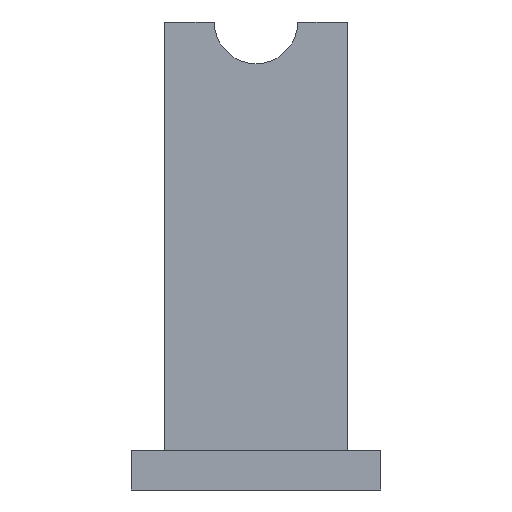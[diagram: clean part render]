
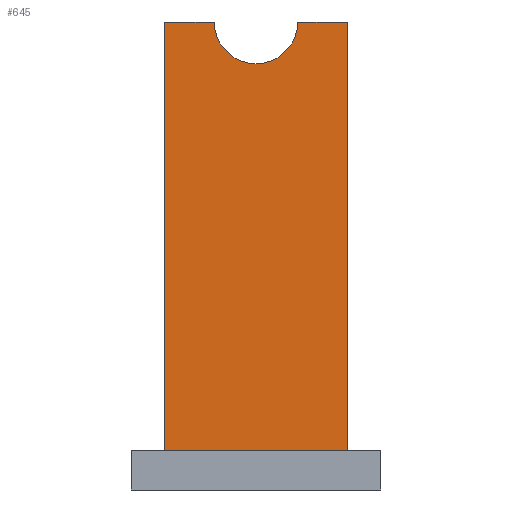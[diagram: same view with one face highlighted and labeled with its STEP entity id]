
A CAD part, left-side view. The second image highlights one B-rep face of the part: STEP entity #645.
In plain terms, the highlighted planar face has unit normal (-1, 0, 0).
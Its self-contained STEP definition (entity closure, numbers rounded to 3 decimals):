
#282 = PLANE('',#283);
#283 = AXIS2_PLACEMENT_3D('',#284,#285,#286);
#284 = CARTESIAN_POINT('',(79.,-15.,9.6));
#285 = DIRECTION('',(0.,0.,1.));
#286 = DIRECTION('',(1.,0.,-0.));
#534 = EDGE_CURVE('',#535,#537,#539,.T.);
#535 = VERTEX_POINT('',#536);
#536 = CARTESIAN_POINT('',(86.8,11.,9.6));
#537 = VERTEX_POINT('',#538);
#538 = CARTESIAN_POINT('',(86.8,-11.,9.6));
#539 = SURFACE_CURVE('',#540,(#544,#551),.PCURVE_S1.);
#540 = LINE('',#541,#542);
#541 = CARTESIAN_POINT('',(86.8,-13.,9.6));
#542 = VECTOR('',#543,1.);
#543 = DIRECTION('',(0.,-1.,0.));
#544 = PCURVE('',#282,#545);
#545 = DEFINITIONAL_REPRESENTATION('',(#546),#550);
#546 = LINE('',#547,#548);
#547 = CARTESIAN_POINT('',(7.8,2.));
#548 = VECTOR('',#549,1.);
#549 = DIRECTION('',(0.,-1.));
#550 = ( GEOMETRIC_REPRESENTATION_CONTEXT(2) 
PARAMETRIC_REPRESENTATION_CONTEXT() REPRESENTATION_CONTEXT('2D SPACE',''
  ) );
#551 = PCURVE('',#552,#557);
#552 = PLANE('',#553);
#553 = AXIS2_PLACEMENT_3D('',#554,#555,#556);
#554 = CARTESIAN_POINT('',(86.8,-11.,4.8));
#555 = DIRECTION('',(1.,0.,0.));
#556 = DIRECTION('',(0.,0.,1.));
#557 = DEFINITIONAL_REPRESENTATION('',(#558),#562);
#558 = LINE('',#559,#560);
#559 = CARTESIAN_POINT('',(4.8,2.));
#560 = VECTOR('',#561,1.);
#561 = DIRECTION('',(0.,1.));
#562 = ( GEOMETRIC_REPRESENTATION_CONTEXT(2) 
PARAMETRIC_REPRESENTATION_CONTEXT() REPRESENTATION_CONTEXT('2D SPACE',''
  ) );
#580 = PLANE('',#581);
#581 = AXIS2_PLACEMENT_3D('',#582,#583,#584);
#582 = CARTESIAN_POINT('',(86.8,11.,4.8));
#583 = DIRECTION('',(0.,1.,0.));
#584 = DIRECTION('',(0.,-0.,1.));
#634 = PLANE('',#635);
#635 = AXIS2_PLACEMENT_3D('',#636,#637,#638);
#636 = CARTESIAN_POINT('',(86.8,-11.,4.8));
#637 = DIRECTION('',(0.,1.,0.));
#638 = DIRECTION('',(0.,-0.,1.));
#645 = ADVANCED_FACE('',(#646),#552,.F.);
#646 = FACE_BOUND('',#647,.F.);
#647 = EDGE_LOOP('',(#648,#671,#672,#695,#723,#752));
#648 = ORIENTED_EDGE('',*,*,#649,.F.);
#649 = EDGE_CURVE('',#537,#650,#652,.T.);
#650 = VERTEX_POINT('',#651);
#651 = CARTESIAN_POINT('',(86.8,-11.,61.));
#652 = SURFACE_CURVE('',#653,(#657,#664),.PCURVE_S1.);
#653 = LINE('',#654,#655);
#654 = CARTESIAN_POINT('',(86.8,-11.,4.8));
#655 = VECTOR('',#656,1.);
#656 = DIRECTION('',(0.,0.,1.));
#657 = PCURVE('',#552,#658);
#658 = DEFINITIONAL_REPRESENTATION('',(#659),#663);
#659 = LINE('',#660,#661);
#660 = CARTESIAN_POINT('',(0.,0.));
#661 = VECTOR('',#662,1.);
#662 = DIRECTION('',(1.,0.));
#663 = ( GEOMETRIC_REPRESENTATION_CONTEXT(2) 
PARAMETRIC_REPRESENTATION_CONTEXT() REPRESENTATION_CONTEXT('2D SPACE',''
  ) );
#664 = PCURVE('',#634,#665);
#665 = DEFINITIONAL_REPRESENTATION('',(#666),#670);
#666 = LINE('',#667,#668);
#667 = CARTESIAN_POINT('',(0.,0.));
#668 = VECTOR('',#669,1.);
#669 = DIRECTION('',(1.,0.));
#670 = ( GEOMETRIC_REPRESENTATION_CONTEXT(2) 
PARAMETRIC_REPRESENTATION_CONTEXT() REPRESENTATION_CONTEXT('2D SPACE',''
  ) );
#671 = ORIENTED_EDGE('',*,*,#534,.F.);
#672 = ORIENTED_EDGE('',*,*,#673,.T.);
#673 = EDGE_CURVE('',#535,#674,#676,.T.);
#674 = VERTEX_POINT('',#675);
#675 = CARTESIAN_POINT('',(86.8,11.,61.));
#676 = SURFACE_CURVE('',#677,(#681,#688),.PCURVE_S1.);
#677 = LINE('',#678,#679);
#678 = CARTESIAN_POINT('',(86.8,11.,4.8));
#679 = VECTOR('',#680,1.);
#680 = DIRECTION('',(0.,0.,1.));
#681 = PCURVE('',#552,#682);
#682 = DEFINITIONAL_REPRESENTATION('',(#683),#687);
#683 = LINE('',#684,#685);
#684 = CARTESIAN_POINT('',(0.,-22.));
#685 = VECTOR('',#686,1.);
#686 = DIRECTION('',(1.,0.));
#687 = ( GEOMETRIC_REPRESENTATION_CONTEXT(2) 
PARAMETRIC_REPRESENTATION_CONTEXT() REPRESENTATION_CONTEXT('2D SPACE',''
  ) );
#688 = PCURVE('',#580,#689);
#689 = DEFINITIONAL_REPRESENTATION('',(#690),#694);
#690 = LINE('',#691,#692);
#691 = CARTESIAN_POINT('',(0.,0.));
#692 = VECTOR('',#693,1.);
#693 = DIRECTION('',(1.,0.));
#694 = ( GEOMETRIC_REPRESENTATION_CONTEXT(2) 
PARAMETRIC_REPRESENTATION_CONTEXT() REPRESENTATION_CONTEXT('2D SPACE',''
  ) );
#695 = ORIENTED_EDGE('',*,*,#696,.F.);
#696 = EDGE_CURVE('',#697,#674,#699,.T.);
#697 = VERTEX_POINT('',#698);
#698 = CARTESIAN_POINT('',(86.8,5.,61.));
#699 = SURFACE_CURVE('',#700,(#704,#711),.PCURVE_S1.);
#700 = LINE('',#701,#702);
#701 = CARTESIAN_POINT('',(86.8,-11.,61.));
#702 = VECTOR('',#703,1.);
#703 = DIRECTION('',(0.,1.,0.));
#704 = PCURVE('',#552,#705);
#705 = DEFINITIONAL_REPRESENTATION('',(#706),#710);
#706 = LINE('',#707,#708);
#707 = CARTESIAN_POINT('',(56.2,0.));
#708 = VECTOR('',#709,1.);
#709 = DIRECTION('',(0.,-1.));
#710 = ( GEOMETRIC_REPRESENTATION_CONTEXT(2) 
PARAMETRIC_REPRESENTATION_CONTEXT() REPRESENTATION_CONTEXT('2D SPACE',''
  ) );
#711 = PCURVE('',#712,#717);
#712 = PLANE('',#713);
#713 = AXIS2_PLACEMENT_3D('',#714,#715,#716);
#714 = CARTESIAN_POINT('',(86.8,-11.,61.));
#715 = DIRECTION('',(0.,0.,1.));
#716 = DIRECTION('',(1.,0.,-0.));
#717 = DEFINITIONAL_REPRESENTATION('',(#718),#722);
#718 = LINE('',#719,#720);
#719 = CARTESIAN_POINT('',(0.,0.));
#720 = VECTOR('',#721,1.);
#721 = DIRECTION('',(0.,1.));
#722 = ( GEOMETRIC_REPRESENTATION_CONTEXT(2) 
PARAMETRIC_REPRESENTATION_CONTEXT() REPRESENTATION_CONTEXT('2D SPACE',''
  ) );
#723 = ORIENTED_EDGE('',*,*,#724,.F.);
#724 = EDGE_CURVE('',#725,#697,#727,.T.);
#725 = VERTEX_POINT('',#726);
#726 = CARTESIAN_POINT('',(86.8,-5.,61.));
#727 = SURFACE_CURVE('',#728,(#733,#740),.PCURVE_S1.);
#728 = CIRCLE('',#729,5.);
#729 = AXIS2_PLACEMENT_3D('',#730,#731,#732);
#730 = CARTESIAN_POINT('',(86.8,0.,61.));
#731 = DIRECTION('',(1.,0.,0.));
#732 = DIRECTION('',(0.,-1.,0.));
#733 = PCURVE('',#552,#734);
#734 = DEFINITIONAL_REPRESENTATION('',(#735),#739);
#735 = CIRCLE('',#736,5.);
#736 = AXIS2_PLACEMENT_2D('',#737,#738);
#737 = CARTESIAN_POINT('',(56.2,-11.));
#738 = DIRECTION('',(0.,1.));
#739 = ( GEOMETRIC_REPRESENTATION_CONTEXT(2) 
PARAMETRIC_REPRESENTATION_CONTEXT() REPRESENTATION_CONTEXT('2D SPACE',''
  ) );
#740 = PCURVE('',#741,#746);
#741 = CYLINDRICAL_SURFACE('',#742,5.);
#742 = AXIS2_PLACEMENT_3D('',#743,#744,#745);
#743 = CARTESIAN_POINT('',(85.,0.,61.));
#744 = DIRECTION('',(1.,0.,0.));
#745 = DIRECTION('',(0.,0.,-1.));
#746 = DEFINITIONAL_REPRESENTATION('',(#747),#751);
#747 = LINE('',#748,#749);
#748 = CARTESIAN_POINT('',(4.712,1.8));
#749 = VECTOR('',#750,1.);
#750 = DIRECTION('',(1.,0.));
#751 = ( GEOMETRIC_REPRESENTATION_CONTEXT(2) 
PARAMETRIC_REPRESENTATION_CONTEXT() REPRESENTATION_CONTEXT('2D SPACE',''
  ) );
#752 = ORIENTED_EDGE('',*,*,#753,.F.);
#753 = EDGE_CURVE('',#650,#725,#754,.T.);
#754 = SURFACE_CURVE('',#755,(#759,#766),.PCURVE_S1.);
#755 = LINE('',#756,#757);
#756 = CARTESIAN_POINT('',(86.8,-11.,61.));
#757 = VECTOR('',#758,1.);
#758 = DIRECTION('',(0.,1.,0.));
#759 = PCURVE('',#552,#760);
#760 = DEFINITIONAL_REPRESENTATION('',(#761),#765);
#761 = LINE('',#762,#763);
#762 = CARTESIAN_POINT('',(56.2,0.));
#763 = VECTOR('',#764,1.);
#764 = DIRECTION('',(0.,-1.));
#765 = ( GEOMETRIC_REPRESENTATION_CONTEXT(2) 
PARAMETRIC_REPRESENTATION_CONTEXT() REPRESENTATION_CONTEXT('2D SPACE',''
  ) );
#766 = PCURVE('',#767,#772);
#767 = PLANE('',#768);
#768 = AXIS2_PLACEMENT_3D('',#769,#770,#771);
#769 = CARTESIAN_POINT('',(86.8,-11.,61.));
#770 = DIRECTION('',(0.,0.,1.));
#771 = DIRECTION('',(1.,0.,-0.));
#772 = DEFINITIONAL_REPRESENTATION('',(#773),#777);
#773 = LINE('',#774,#775);
#774 = CARTESIAN_POINT('',(0.,0.));
#775 = VECTOR('',#776,1.);
#776 = DIRECTION('',(0.,1.));
#777 = ( GEOMETRIC_REPRESENTATION_CONTEXT(2) 
PARAMETRIC_REPRESENTATION_CONTEXT() REPRESENTATION_CONTEXT('2D SPACE',''
  ) );
